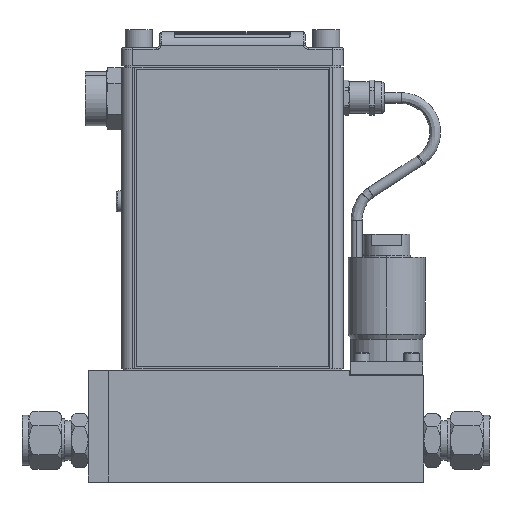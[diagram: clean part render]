
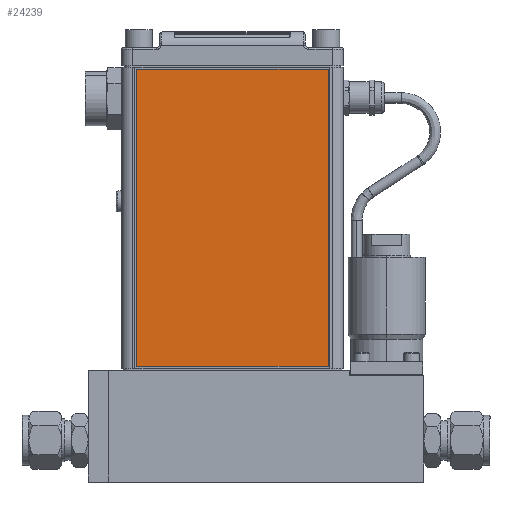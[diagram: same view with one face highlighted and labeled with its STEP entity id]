
A CAD part, top view. The second image highlights one B-rep face of the part: STEP entity #24239.
In plain terms, the highlighted planar face has unit normal (0, 0, 1).
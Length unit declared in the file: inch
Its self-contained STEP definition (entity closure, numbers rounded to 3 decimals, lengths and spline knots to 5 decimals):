
#80 = CARTESIAN_POINT ( 'NONE',  ( 1.25466, 2.01382, 0.963 ) ) ;
#135 = VERTEX_POINT ( 'NONE', #20465 ) ;
#929 = CARTESIAN_POINT ( 'NONE',  ( -0.41034, 2.01382, 0.963 ) ) ;
#3407 = VECTOR ( 'NONE', #24319, 39.37008 ) ;
#6283 = LINE ( 'NONE', #36023, #3407 ) ;
#6284 = ORIENTED_EDGE ( 'NONE', *, *, #23358, .T. ) ;
#6411 = DIRECTION ( 'NONE',  ( 0., 1., 0. ) ) ;
#7074 = LINE ( 'NONE', #929, #32213 ) ;
#7215 = VECTOR ( 'NONE', #35534, 39.37008 ) ;
#8209 = CARTESIAN_POINT ( 'NONE',  ( -0.41034, 7.18382, 0.963 ) ) ;
#8581 = VECTOR ( 'NONE', #6411, 39.37008 ) ;
#8790 = ORIENTED_EDGE ( 'NONE', *, *, #14103, .T. ) ;
#9439 = PLANE ( 'NONE',  #38391 ) ;
#10994 = LINE ( 'NONE', #8209, #7215 ) ;
#14103 = EDGE_CURVE ( 'NONE', #135, #30064, #6283, .T. ) ;
#14982 = FACE_OUTER_BOUND ( 'NONE', #18919, .T. ) ;
#17157 = EDGE_CURVE ( 'NONE', #33173, #135, #10994, .T. ) ;
#18919 = EDGE_LOOP ( 'NONE', ( #8790, #37208, #6284, #36067 ) ) ;
#19513 = CARTESIAN_POINT ( 'NONE',  ( 1.25466, 7.18382, 0.963 ) ) ;
#20465 = CARTESIAN_POINT ( 'NONE',  ( -2.07534, 7.18382, 0.963 ) ) ;
#21888 = VERTEX_POINT ( 'NONE', #22194 ) ;
#22194 = CARTESIAN_POINT ( 'NONE',  ( 1.25466, 2.01382, 0.963 ) ) ;
#22779 = CARTESIAN_POINT ( 'NONE',  ( -2.07534, 2.01382, 0.963 ) ) ;
#23358 = EDGE_CURVE ( 'NONE', #21888, #33173, #30206, .T. ) ;
#24080 = CARTESIAN_POINT ( 'NONE',  ( -0.41034, 2.01382, 0.963 ) ) ;
#24239 = ADVANCED_FACE ( 'NONE', ( #14982 ), #9439, .T. ) ;
#24319 = DIRECTION ( 'NONE',  ( 0., -1., 0. ) ) ;
#24472 = DIRECTION ( 'NONE',  ( 0., -1., 0. ) ) ;
#30064 = VERTEX_POINT ( 'NONE', #22779 ) ;
#30206 = LINE ( 'NONE', #80, #8581 ) ;
#30857 = DIRECTION ( 'NONE',  ( 1., 0., 0. ) ) ;
#32213 = VECTOR ( 'NONE', #30857, 39.37008 ) ;
#32856 = EDGE_CURVE ( 'NONE', #30064, #21888, #7074, .T. ) ;
#33173 = VERTEX_POINT ( 'NONE', #19513 ) ;
#33384 = DIRECTION ( 'NONE',  ( 0., 0., 1. ) ) ;
#35534 = DIRECTION ( 'NONE',  ( -1., 0., 0. ) ) ;
#36023 = CARTESIAN_POINT ( 'NONE',  ( -2.07534, 2.01382, 0.963 ) ) ;
#36067 = ORIENTED_EDGE ( 'NONE', *, *, #17157, .T. ) ;
#37208 = ORIENTED_EDGE ( 'NONE', *, *, #32856, .T. ) ;
#38391 = AXIS2_PLACEMENT_3D ( 'NONE', #24080, #33384, #24472 ) ;
